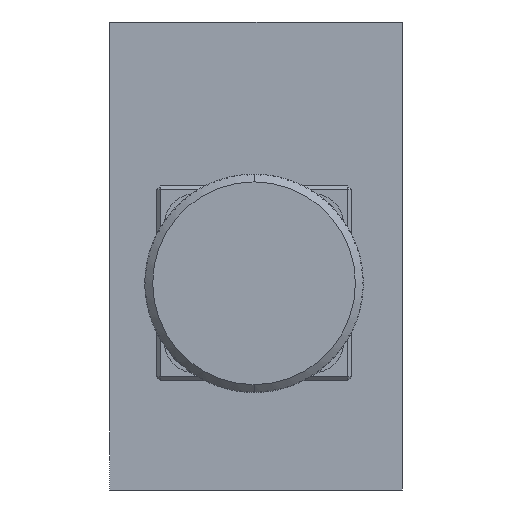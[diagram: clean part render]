
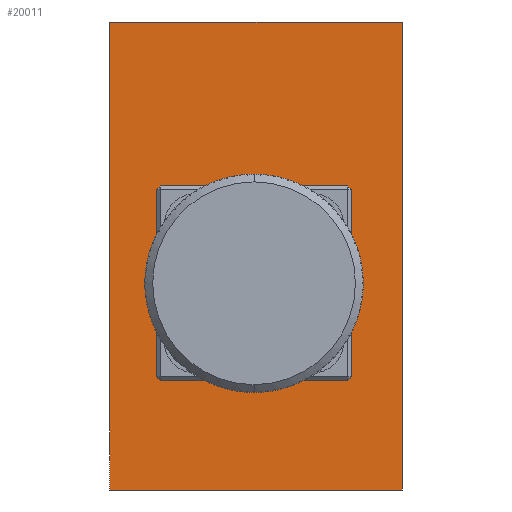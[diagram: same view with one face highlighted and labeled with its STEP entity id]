
A CAD part, left-side view. The second image highlights one B-rep face of the part: STEP entity #20011.
In plain terms, the highlighted planar face has unit normal (-1, 0, 0).
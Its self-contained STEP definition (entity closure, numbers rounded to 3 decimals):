
#80 = ORIENTED_EDGE ( 'NONE', *, *, #9573, .F. ) ;
#403 = EDGE_LOOP ( 'NONE', ( #3539, #17883 ) ) ;
#465 = VECTOR ( 'NONE', #21082, 1000. ) ;
#487 = CIRCLE ( 'NONE', #2181, 2. ) ;
#554 = CARTESIAN_POINT ( 'NONE',  ( 0., 0.25, -7.75 ) ) ;
#962 = DIRECTION ( 'NONE',  ( 0., 0., 1. ) ) ;
#1313 = CARTESIAN_POINT ( 'NONE',  ( 0., -7.25, 4. ) ) ;
#1401 = CIRCLE ( 'NONE', #8892, 2. ) ;
#1645 = ORIENTED_EDGE ( 'NONE', *, *, #15753, .F. ) ;
#2181 = AXIS2_PLACEMENT_3D ( 'NONE', #16070, #4111, #18098 ) ;
#2265 = CIRCLE ( 'NONE', #17808, 2. ) ;
#2570 = ORIENTED_EDGE ( 'NONE', *, *, #8898, .F. ) ;
#2894 = CARTESIAN_POINT ( 'NONE',  ( 0., -5.497, 3.036 ) ) ;
#2944 = CARTESIAN_POINT ( 'NONE',  ( 0., -18.75, -30. ) ) ;
#3203 = FACE_BOUND ( 'NONE', #403, .T. ) ;
#3314 = DIRECTION ( 'NONE',  ( 0., 0., 1. ) ) ;
#3539 = ORIENTED_EDGE ( 'NONE', *, *, #18462, .F. ) ;
#4111 = DIRECTION ( 'NONE',  ( -1., 0., 0. ) ) ;
#4937 = DIRECTION ( 'NONE',  ( 0., 1., 0. ) ) ;
#5748 = VERTEX_POINT ( 'NONE', #9890 ) ;
#6389 = VERTEX_POINT ( 'NONE', #12839 ) ;
#6554 = DIRECTION ( 'NONE',  ( -1., 0., 0. ) ) ;
#6560 = DIRECTION ( 'NONE',  ( -1., 0., 0. ) ) ;
#6830 = CARTESIAN_POINT ( 'NONE',  ( 0., -18.75, -30. ) ) ;
#6912 = AXIS2_PLACEMENT_3D ( 'NONE', #20679, #8647, #22688 ) ;
#7011 = VERTEX_POINT ( 'NONE', #10896 ) ;
#7568 = EDGE_CURVE ( 'NONE', #23358, #8729, #16417, .T. ) ;
#7897 = AXIS2_PLACEMENT_3D ( 'NONE', #24951, #12867, #962 ) ;
#8139 = EDGE_LOOP ( 'NONE', ( #14802, #13220 ) ) ;
#8550 = CIRCLE ( 'NONE', #6912, 4.25 ) ;
#8647 = DIRECTION ( 'NONE',  ( -1., 0., 0. ) ) ;
#8729 = VERTEX_POINT ( 'NONE', #554 ) ;
#8892 = AXIS2_PLACEMENT_3D ( 'NONE', #18571, #6560, #20606 ) ;
#8898 = EDGE_CURVE ( 'NONE', #6389, #23611, #16379, .T. ) ;
#9104 = VECTOR ( 'NONE', #15484, 1000. ) ;
#9573 = EDGE_CURVE ( 'NONE', #7011, #6389, #25177, .T. ) ;
#9890 = CARTESIAN_POINT ( 'NONE',  ( 0., 7.75, -9. ) ) ;
#10321 = EDGE_LOOP ( 'NONE', ( #13457, #21035 ) ) ;
#10531 = EDGE_CURVE ( 'NONE', #23611, #12161, #18768, .T. ) ;
#10896 = CARTESIAN_POINT ( 'NONE',  ( 0., 18.75, -30. ) ) ;
#10975 = FACE_BOUND ( 'NONE', #8139, .T. ) ;
#11103 = CARTESIAN_POINT ( 'NONE',  ( 0., 7.75, -11. ) ) ;
#11599 = EDGE_LOOP ( 'NONE', ( #1645, #25793, #2570, #80 ) ) ;
#11934 = LINE ( 'NONE', #2944, #17275 ) ;
#12161 = VERTEX_POINT ( 'NONE', #6830 ) ;
#12487 = VERTEX_POINT ( 'NONE', #22248 ) ;
#12839 = CARTESIAN_POINT ( 'NONE',  ( 0., 18.75, 30. ) ) ;
#12867 = DIRECTION ( 'NONE',  ( -1., 0., 0. ) ) ;
#13082 = CARTESIAN_POINT ( 'NONE',  ( 0., -18.75, 30. ) ) ;
#13125 = DIRECTION ( 'NONE',  ( 0., 0., 1. ) ) ;
#13220 = ORIENTED_EDGE ( 'NONE', *, *, #19538, .F. ) ;
#13252 = AXIS2_PLACEMENT_3D ( 'NONE', #1313, #15251, #3314 ) ;
#13457 = ORIENTED_EDGE ( 'NONE', *, *, #7568, .F. ) ;
#13498 = CARTESIAN_POINT ( 'NONE',  ( 0., 0.25, 0.75 ) ) ;
#14802 = ORIENTED_EDGE ( 'NONE', *, *, #14913, .F. ) ;
#14913 = EDGE_CURVE ( 'NONE', #12487, #20515, #19875, .T. ) ;
#15251 = DIRECTION ( 'NONE',  ( -1., 0., 0. ) ) ;
#15484 = DIRECTION ( 'NONE',  ( 0., 0., 1. ) ) ;
#15753 = EDGE_CURVE ( 'NONE', #12161, #7011, #11934, .T. ) ;
#15940 = VERTEX_POINT ( 'NONE', #17766 ) ;
#16070 = CARTESIAN_POINT ( 'NONE',  ( 0., 7.75, -11. ) ) ;
#16256 = EDGE_CURVE ( 'NONE', #15940, #5748, #2265, .T. ) ;
#16379 = LINE ( 'NONE', #13082, #465 ) ;
#16417 = CIRCLE ( 'NONE', #7897, 4.25 ) ;
#17275 = VECTOR ( 'NONE', #4937, 1000. ) ;
#17766 = CARTESIAN_POINT ( 'NONE',  ( 0., 7.75, -13. ) ) ;
#17808 = AXIS2_PLACEMENT_3D ( 'NONE', #11103, #25195, #13125 ) ;
#17883 = ORIENTED_EDGE ( 'NONE', *, *, #16256, .F. ) ;
#18098 = DIRECTION ( 'NONE',  ( 0., 0., 1. ) ) ;
#18106 = VECTOR ( 'NONE', #19301, 1000. ) ;
#18462 = EDGE_CURVE ( 'NONE', #5748, #15940, #487, .T. ) ;
#18557 = CARTESIAN_POINT ( 'NONE',  ( 0., 18.75, -30. ) ) ;
#18571 = CARTESIAN_POINT ( 'NONE',  ( 0., -7.25, 4. ) ) ;
#18768 = LINE ( 'NONE', #21315, #18106 ) ;
#19147 = FACE_OUTER_BOUND ( 'NONE', #11599, .T. ) ;
#19301 = DIRECTION ( 'NONE',  ( 0., 0., -1. ) ) ;
#19538 = EDGE_CURVE ( 'NONE', #20515, #12487, #1401, .T. ) ;
#19875 = CIRCLE ( 'NONE', #13252, 2. ) ;
#20011 = ADVANCED_FACE ( 'NONE', ( #10975, #3203, #19147, #24496 ), #20505, .T. ) ;
#20338 = AXIS2_PLACEMENT_3D ( 'NONE', #18557, #6554, #20594 ) ;
#20505 = PLANE ( 'NONE',  #20338 ) ;
#20515 = VERTEX_POINT ( 'NONE', #2894 ) ;
#20594 = DIRECTION ( 'NONE',  ( 0., 0., 1. ) ) ;
#20606 = DIRECTION ( 'NONE',  ( 0., 0., 1. ) ) ;
#20679 = CARTESIAN_POINT ( 'NONE',  ( 0., 0.25, -3.5 ) ) ;
#21035 = ORIENTED_EDGE ( 'NONE', *, *, #22621, .F. ) ;
#21082 = DIRECTION ( 'NONE',  ( 0., -1., 0. ) ) ;
#21315 = CARTESIAN_POINT ( 'NONE',  ( 0., -18.75, 30. ) ) ;
#22248 = CARTESIAN_POINT ( 'NONE',  ( 0., -9.003, 4.964 ) ) ;
#22275 = CARTESIAN_POINT ( 'NONE',  ( 0., -18.75, 30. ) ) ;
#22621 = EDGE_CURVE ( 'NONE', #8729, #23358, #8550, .T. ) ;
#22688 = DIRECTION ( 'NONE',  ( 0., 0., 1. ) ) ;
#23358 = VERTEX_POINT ( 'NONE', #13498 ) ;
#23611 = VERTEX_POINT ( 'NONE', #22275 ) ;
#24496 = FACE_BOUND ( 'NONE', #10321, .T. ) ;
#24951 = CARTESIAN_POINT ( 'NONE',  ( 0., 0.25, -3.5 ) ) ;
#25177 = LINE ( 'NONE', #25461, #9104 ) ;
#25195 = DIRECTION ( 'NONE',  ( -1., 0., 0. ) ) ;
#25461 = CARTESIAN_POINT ( 'NONE',  ( 0., 18.75, 30. ) ) ;
#25793 = ORIENTED_EDGE ( 'NONE', *, *, #10531, .F. ) ;
